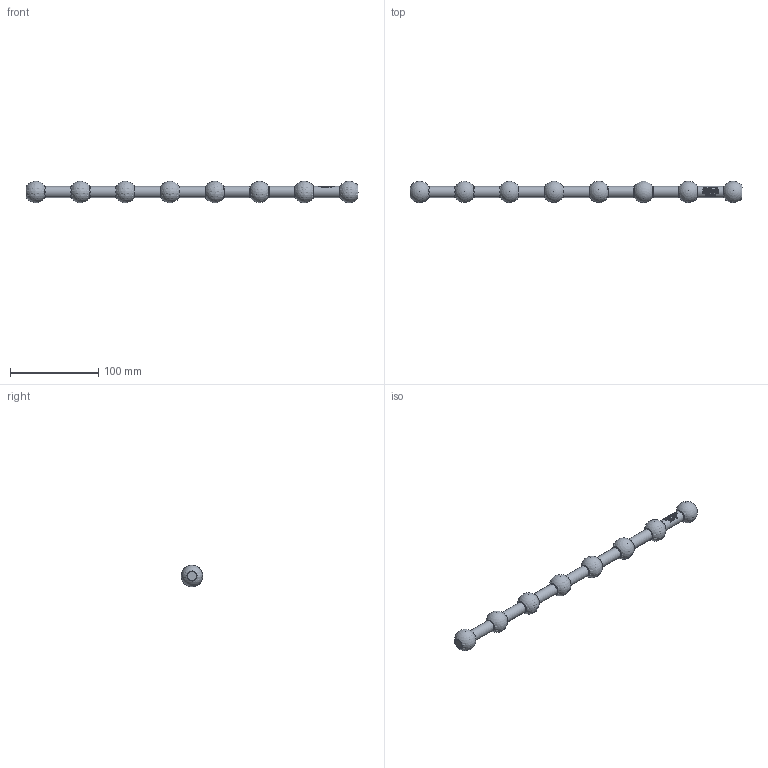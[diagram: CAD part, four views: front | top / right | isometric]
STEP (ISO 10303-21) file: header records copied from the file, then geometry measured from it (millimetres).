
FILE_DESCRIPTION(/* description */ (''),/* implementation_level */ '2;1');
FILE_NAME(/* name */ 'C:\Users\owner\Desktop\PL-HYPERLINKS_3D_stp\PL-HLINK14IN.stp',/* time_stamp */ '2017-09-29T15:01:42-04:00',/* author */ ('owner'),/* organization */ (''),/* preprocessor_version */ 'ST-DEVELOPER v16.5',/* originating_system */ 'Autodesk Inventor 2017',/* authorisation */ '');
FILE_SCHEMA (('CONFIG_CONTROL_DESIGN'));
Length unit declared in the file: inch
Products named in the file (4): PL-HLINK14IN; 60032; 60033-1; 60033-2
Assembly tree (8 placements, depth 2):
  PL-HLINK14IN
    60033-1  x6
    60032
    60033-2
Bounding box: 376.53 x 24.37 x 24.37 mm (x, y, z)
Volume: 83059.2 mm3; surface area: 29032.6 mm2
Topology: 8 solids, 8 shells, 828 faces, 2185 edges, 1445 vertices
Faces by surface type: plane 368, bspline 306, cylinder 94, torus 29, cone 23, sphere 8
Full cylindrical faces by diameter (mm): 9.487 x7, 9.525 x8, 9.588 x7, 12.611 x7
Entity records: 29082 total; most frequent: CARTESIAN_POINT 11946, ORIENTED_EDGE 3956, DIRECTION 2712, EDGE_CURVE 1978, VERTEX_POINT 1326, LINE 966, VECTOR 966, AXIS2_PLACEMENT_3D 873
